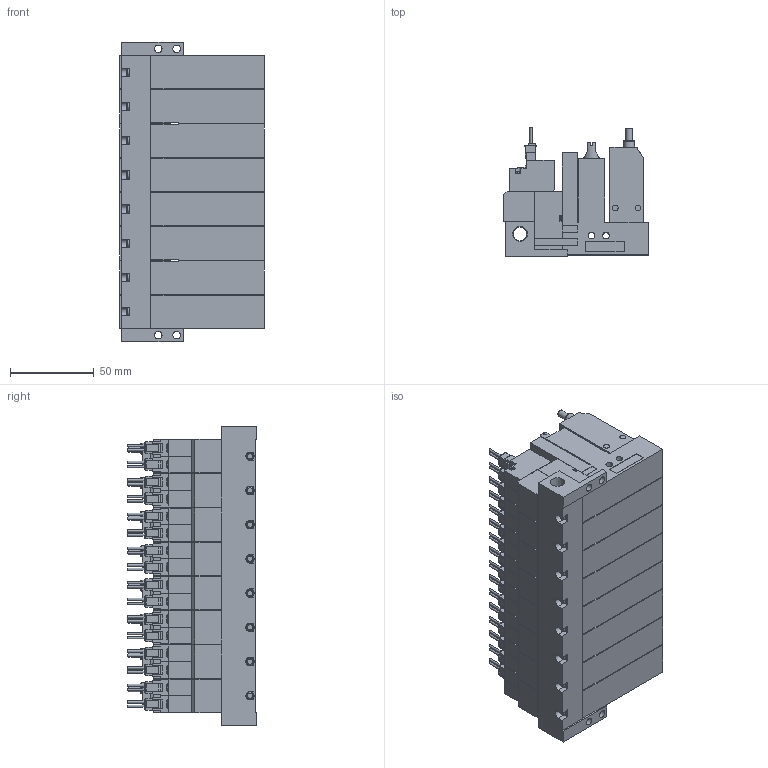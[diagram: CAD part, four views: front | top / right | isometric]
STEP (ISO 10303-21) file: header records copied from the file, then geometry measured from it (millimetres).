
FILE_DESCRIPTION(('STEP AP203'),'1');
FILE_NAME('ABS_ABPL5BLR808.stp','2025-02-25T05:06:27',(' '),(' '),'Spatial InterOp 3D',' ',' ');
FILE_SCHEMA(('CONFIG_CONTROL_DESIGN'));
Length unit declared in the file: millimetre
Products named in the file (5): BMC22M※※※※ABS_ABPL5BLR808; Solenoid valve B; Pressure sensor ABSL; Unit L; Base MR80R
Assembly tree (25 placements, depth 2):
  BMC22M※※※※ABS_ABPL5BLR808
    Solenoid valve B  x8
    Pressure sensor ABSL  x8
    Unit L  x8
    Base MR80R
Bounding box: 86.6 x 77.45 x 179.5 mm (x, y, z)
Volume: 710700.5 mm3; surface area: 196014.9 mm2
Topology: 25 solids, 25 shells, 2829 faces, 7587 edges, 5008 vertices
Faces by surface type: plane 2398, cylinder 341, cone 58, torus 32
Full cylindrical faces by diameter (mm): 1.4 x32, 2.5 x8, 3 x32, 3.5 x48, 3.6 x8, 4 x24, 4.134 x8, 4.5 x4, 5.2 x8, 6 x8, 6.5 x8, 6.6 x8, 8.279 x1
Entity records: 14969 total; most frequent: CARTESIAN_POINT 2909, DIRECTION 2399, ORIENTED_EDGE 2272, EDGE_CURVE 1136, LINE 883, VECTOR 883, VERTEX_POINT 808, AXIS2_PLACEMENT_3D 758
